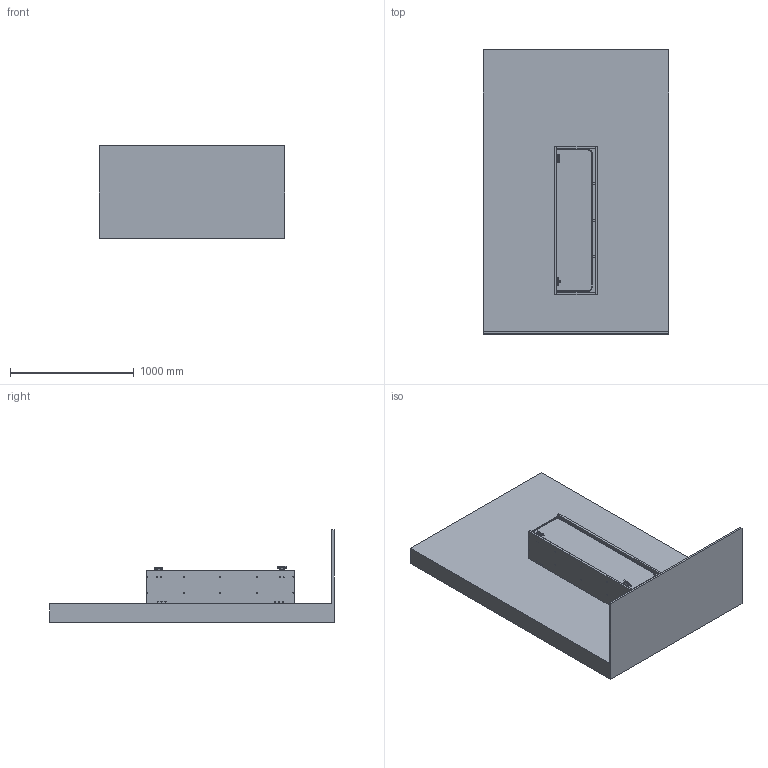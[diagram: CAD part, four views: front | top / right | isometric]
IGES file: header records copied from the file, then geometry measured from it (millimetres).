
Global section: file name: 3D Dosyası (igs),; native system: Autodesk Inventor 2024; preprocessor: unknown; author: pc19; date: 20250627.090100; units: millimetre
Bounding box: 1500 x 2300 x 750 mm (x, y, z)
Volume: 561397500.7 mm3; surface area: 13878191.1 mm2
Topology: 40 solids, 46 shells, 3144 faces, 8253 edges, 5186 vertices
Faces by surface type: bspline 3144
